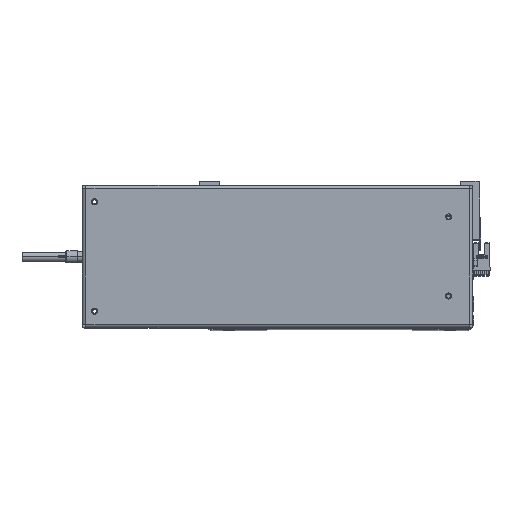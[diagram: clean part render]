
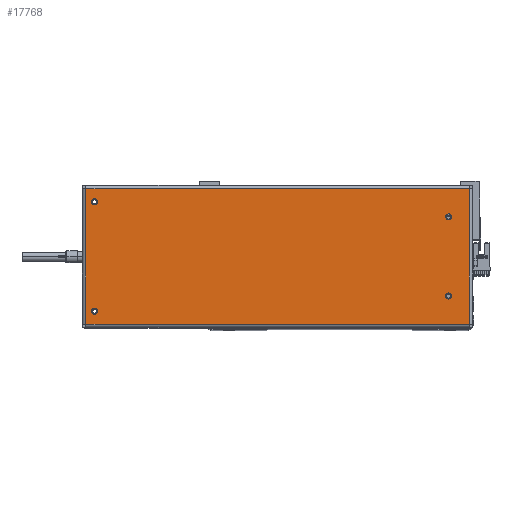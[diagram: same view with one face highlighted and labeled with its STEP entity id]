
A CAD part, top view. The second image highlights one B-rep face of the part: STEP entity #17768.
In plain terms, the highlighted planar face has unit normal (0, 0, 1).
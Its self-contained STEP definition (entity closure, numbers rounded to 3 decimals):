
#48 = EDGE_CURVE ( 'NONE', #36752, #14712, #37228, .T. ) ;
#104 = VERTEX_POINT ( 'NONE', #5186 ) ;
#162 = CARTESIAN_POINT ( 'NONE',  ( -157.6, 55.6, 0. ) ) ;
#371 = EDGE_LOOP ( 'NONE', ( #18334, #13245 ) ) ;
#478 = CARTESIAN_POINT ( 'NONE',  ( 153., -45., 0. ) ) ;
#595 = AXIS2_PLACEMENT_3D ( 'NONE', #26966, #15219, #14713 ) ;
#695 = CARTESIAN_POINT ( 'NONE',  ( -143., -32.5, 0. ) ) ;
#798 = EDGE_CURVE ( 'NONE', #104, #7190, #16352, .T. ) ;
#984 = CARTESIAN_POINT ( 'NONE',  ( 150.5, -45., 0. ) ) ;
#1128 = FACE_BOUND ( 'NONE', #20820, .T. ) ;
#1422 = CIRCLE ( 'NONE', #37864, 2.5 ) ;
#1908 = DIRECTION ( 'NONE',  ( 1., 0., 0. ) ) ;
#2192 = ORIENTED_EDGE ( 'NONE', *, *, #798, .F. ) ;
#2221 = DIRECTION ( 'NONE',  ( 0., 0., 1. ) ) ;
#2388 = DIRECTION ( 'NONE',  ( 1., 0., 0. ) ) ;
#2625 = CARTESIAN_POINT ( 'NONE',  ( 157.6, -55.6, 0. ) ) ;
#2825 = EDGE_CURVE ( 'NONE', #20651, #19792, #6801, .T. ) ;
#3493 = VERTEX_POINT ( 'NONE', #31359 ) ;
#3546 = CIRCLE ( 'NONE', #15197, 2.5 ) ;
#3920 = CIRCLE ( 'NONE', #27341, 2.5 ) ;
#3926 = FACE_BOUND ( 'NONE', #371, .T. ) ;
#5186 = CARTESIAN_POINT ( 'NONE',  ( -143., 32.5, 0. ) ) ;
#5280 = DIRECTION ( 'NONE',  ( 1., 0., 0. ) ) ;
#5990 = VECTOR ( 'NONE', #8425, 1000. ) ;
#6366 = EDGE_CURVE ( 'NONE', #14712, #36752, #1422, .T. ) ;
#6367 = ORIENTED_EDGE ( 'NONE', *, *, #19645, .F. ) ;
#6801 = LINE ( 'NONE', #15955, #23983 ) ;
#6802 = DIRECTION ( 'NONE',  ( 1., 0., 0. ) ) ;
#6889 = VERTEX_POINT ( 'NONE', #14046 ) ;
#7015 = DIRECTION ( 'NONE',  ( 0., 0., 1. ) ) ;
#7140 = DIRECTION ( 'NONE',  ( 1., 0., 0. ) ) ;
#7190 = VERTEX_POINT ( 'NONE', #16504 ) ;
#7750 = CARTESIAN_POINT ( 'NONE',  ( 148., -45., 0. ) ) ;
#8425 = DIRECTION ( 'NONE',  ( 0., 1., 0. ) ) ;
#8528 = DIRECTION ( 'NONE',  ( 1., 0., 0. ) ) ;
#8635 = CARTESIAN_POINT ( 'NONE',  ( -140.5, -32.5, 0. ) ) ;
#8946 = VERTEX_POINT ( 'NONE', #7750 ) ;
#9916 = FACE_BOUND ( 'NONE', #17753, .T. ) ;
#11501 = EDGE_CURVE ( 'NONE', #8946, #23989, #3546, .T. ) ;
#11556 = CARTESIAN_POINT ( 'NONE',  ( -140.5, 32.5, 0. ) ) ;
#11795 = ORIENTED_EDGE ( 'NONE', *, *, #37532, .T. ) ;
#12772 = ORIENTED_EDGE ( 'NONE', *, *, #6366, .F. ) ;
#13235 = ORIENTED_EDGE ( 'NONE', *, *, #32566, .T. ) ;
#13245 = ORIENTED_EDGE ( 'NONE', *, *, #11501, .F. ) ;
#13344 = ORIENTED_EDGE ( 'NONE', *, *, #13398, .F. ) ;
#13398 = EDGE_CURVE ( 'NONE', #36376, #27116, #3920, .T. ) ;
#14046 = CARTESIAN_POINT ( 'NONE',  ( 157.6, -55.6, 0. ) ) ;
#14062 = CARTESIAN_POINT ( 'NONE',  ( 150.5, -45., 0. ) ) ;
#14097 = AXIS2_PLACEMENT_3D ( 'NONE', #24272, #32922, #29774 ) ;
#14137 = CIRCLE ( 'NONE', #26240, 2.5 ) ;
#14712 = VERTEX_POINT ( 'NONE', #32905 ) ;
#14713 = DIRECTION ( 'NONE',  ( 1., 0., 0. ) ) ;
#14818 = DIRECTION ( 'NONE',  ( 0., 0., 1. ) ) ;
#15197 = AXIS2_PLACEMENT_3D ( 'NONE', #14062, #34380, #1908 ) ;
#15219 = DIRECTION ( 'NONE',  ( 0., 0., 1. ) ) ;
#15332 = EDGE_LOOP ( 'NONE', ( #13235, #11795, #28033, #30897 ) ) ;
#15406 = CARTESIAN_POINT ( 'NONE',  ( -140.5, -32.5, 0. ) ) ;
#15955 = CARTESIAN_POINT ( 'NONE',  ( 157.7, 55.6, 0. ) ) ;
#16241 = CARTESIAN_POINT ( 'NONE',  ( 150.5, 45., 0. ) ) ;
#16352 = CIRCLE ( 'NONE', #595, 2.5 ) ;
#16449 = CARTESIAN_POINT ( 'NONE',  ( -157.7, -55.6, 0. ) ) ;
#16504 = CARTESIAN_POINT ( 'NONE',  ( -138., 32.5, 0. ) ) ;
#17452 = EDGE_CURVE ( 'NONE', #23989, #8946, #14137, .T. ) ;
#17753 = EDGE_LOOP ( 'NONE', ( #6367, #2192 ) ) ;
#17768 = ADVANCED_FACE ( 'NONE', ( #22483, #9916, #3926, #1128, #33536 ), #29920, .F. ) ;
#18296 = AXIS2_PLACEMENT_3D ( 'NONE', #8635, #25878, #5280 ) ;
#18334 = ORIENTED_EDGE ( 'NONE', *, *, #17452, .F. ) ;
#19225 = AXIS2_PLACEMENT_3D ( 'NONE', #20506, #2221, #8528 ) ;
#19316 = ORIENTED_EDGE ( 'NONE', *, *, #48, .F. ) ;
#19645 = EDGE_CURVE ( 'NONE', #7190, #104, #27887, .T. ) ;
#19792 = VERTEX_POINT ( 'NONE', #162 ) ;
#20506 = CARTESIAN_POINT ( 'NONE',  ( 150.5, 45., 0. ) ) ;
#20651 = VERTEX_POINT ( 'NONE', #34634 ) ;
#20820 = EDGE_LOOP ( 'NONE', ( #19316, #12772 ) ) ;
#21523 = DIRECTION ( 'NONE',  ( 1., 0., 0. ) ) ;
#21783 = LINE ( 'NONE', #2625, #5990 ) ;
#22483 = FACE_BOUND ( 'NONE', #23535, .T. ) ;
#22673 = DIRECTION ( 'NONE',  ( 1., 0., 0. ) ) ;
#23102 = VECTOR ( 'NONE', #35607, 1000. ) ;
#23535 = EDGE_LOOP ( 'NONE', ( #13344, #33153 ) ) ;
#23983 = VECTOR ( 'NONE', #30935, 1000. ) ;
#23989 = VERTEX_POINT ( 'NONE', #478 ) ;
#24190 = CARTESIAN_POINT ( 'NONE',  ( -138., -32.5, 0. ) ) ;
#24272 = CARTESIAN_POINT ( 'NONE',  ( 157.7, 58.5, 0. ) ) ;
#24810 = DIRECTION ( 'NONE',  ( 0., 0., 1. ) ) ;
#25878 = DIRECTION ( 'NONE',  ( 0., 0., 1. ) ) ;
#26240 = AXIS2_PLACEMENT_3D ( 'NONE', #984, #24810, #6802 ) ;
#26966 = CARTESIAN_POINT ( 'NONE',  ( -140.5, 32.5, 0. ) ) ;
#27116 = VERTEX_POINT ( 'NONE', #695 ) ;
#27168 = DIRECTION ( 'NONE',  ( 0., 0., 1. ) ) ;
#27341 = AXIS2_PLACEMENT_3D ( 'NONE', #15406, #27168, #21523 ) ;
#27887 = CIRCLE ( 'NONE', #36685, 2.5 ) ;
#28033 = ORIENTED_EDGE ( 'NONE', *, *, #37145, .T. ) ;
#29774 = DIRECTION ( 'NONE',  ( -1., 0., 0. ) ) ;
#29920 = PLANE ( 'NONE',  #14097 ) ;
#30897 = ORIENTED_EDGE ( 'NONE', *, *, #2825, .T. ) ;
#30935 = DIRECTION ( 'NONE',  ( -1., 0., 0. ) ) ;
#31359 = CARTESIAN_POINT ( 'NONE',  ( -157.6, -55.6, 0. ) ) ;
#31835 = VECTOR ( 'NONE', #22673, 1000. ) ;
#32270 = CARTESIAN_POINT ( 'NONE',  ( 153., 45., 0. ) ) ;
#32566 = EDGE_CURVE ( 'NONE', #19792, #3493, #36031, .T. ) ;
#32905 = CARTESIAN_POINT ( 'NONE',  ( 148., 45., 0. ) ) ;
#32922 = DIRECTION ( 'NONE',  ( 0., 0., -1. ) ) ;
#33153 = ORIENTED_EDGE ( 'NONE', *, *, #36225, .F. ) ;
#33536 = FACE_OUTER_BOUND ( 'NONE', #15332, .T. ) ;
#34204 = LINE ( 'NONE', #16449, #31835 ) ;
#34276 = CIRCLE ( 'NONE', #18296, 2.5 ) ;
#34380 = DIRECTION ( 'NONE',  ( 0., 0., 1. ) ) ;
#34634 = CARTESIAN_POINT ( 'NONE',  ( 157.6, 55.6, 0. ) ) ;
#35607 = DIRECTION ( 'NONE',  ( 0., -1., 0. ) ) ;
#35734 = CARTESIAN_POINT ( 'NONE',  ( -157.6, 55.6, 0. ) ) ;
#36031 = LINE ( 'NONE', #35734, #23102 ) ;
#36225 = EDGE_CURVE ( 'NONE', #27116, #36376, #34276, .T. ) ;
#36376 = VERTEX_POINT ( 'NONE', #24190 ) ;
#36685 = AXIS2_PLACEMENT_3D ( 'NONE', #11556, #14818, #2388 ) ;
#36752 = VERTEX_POINT ( 'NONE', #32270 ) ;
#37145 = EDGE_CURVE ( 'NONE', #6889, #20651, #21783, .T. ) ;
#37228 = CIRCLE ( 'NONE', #19225, 2.5 ) ;
#37532 = EDGE_CURVE ( 'NONE', #3493, #6889, #34204, .T. ) ;
#37864 = AXIS2_PLACEMENT_3D ( 'NONE', #16241, #7015, #7140 ) ;
